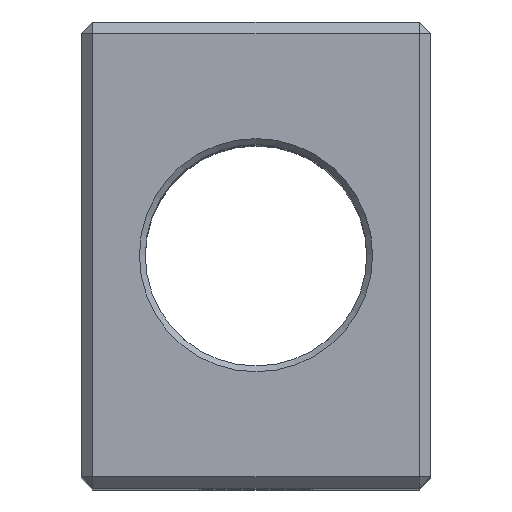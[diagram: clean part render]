
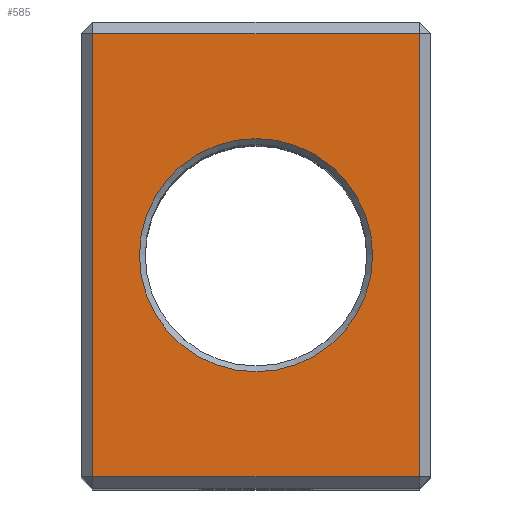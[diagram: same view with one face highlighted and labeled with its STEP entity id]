
A CAD part, top view. The second image highlights one B-rep face of the part: STEP entity #585.
In plain terms, the highlighted planar face has unit normal (0, 0, 1).
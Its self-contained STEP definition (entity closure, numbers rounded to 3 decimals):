
#32=FACE_BOUND('',#117,.T.);
#41=PLANE('',#655);
#73=FACE_OUTER_BOUND('',#116,.T.);
#116=EDGE_LOOP('',(#454,#455,#456,#457));
#117=EDGE_LOOP('',(#458));
#164=LINE('',#1046,#223);
#165=LINE('',#1048,#224);
#166=LINE('',#1050,#225);
#167=LINE('',#1051,#226);
#223=VECTOR('',#740,10.);
#224=VECTOR('',#741,10.);
#225=VECTOR('',#742,10.);
#226=VECTOR('',#743,10.);
#278=CIRCLE('',#650,10.);
#301=VERTEX_POINT('',#962);
#307=VERTEX_POINT('',#1044);
#308=VERTEX_POINT('',#1045);
#309=VERTEX_POINT('',#1047);
#310=VERTEX_POINT('',#1049);
#350=EDGE_CURVE('',#301,#301,#278,.T.);
#358=EDGE_CURVE('',#307,#308,#164,.T.);
#359=EDGE_CURVE('',#309,#307,#165,.T.);
#360=EDGE_CURVE('',#310,#309,#166,.T.);
#361=EDGE_CURVE('',#308,#310,#167,.T.);
#454=ORIENTED_EDGE('',*,*,#358,.F.);
#455=ORIENTED_EDGE('',*,*,#359,.F.);
#456=ORIENTED_EDGE('',*,*,#360,.F.);
#457=ORIENTED_EDGE('',*,*,#361,.F.);
#458=ORIENTED_EDGE('',*,*,#350,.F.);
#585=ADVANCED_FACE('',(#73,#32),#41,.T.);
#650=AXIS2_PLACEMENT_3D('',#963,#726,#727);
#655=AXIS2_PLACEMENT_3D('',#1043,#738,#739);
#726=DIRECTION('center_axis',(0.,0.,1.));
#727=DIRECTION('ref_axis',(-1.,0.,0.));
#738=DIRECTION('center_axis',(0.,0.,1.));
#739=DIRECTION('ref_axis',(1.,0.,0.));
#740=DIRECTION('',(1.,0.,0.));
#741=DIRECTION('',(0.,1.,0.));
#742=DIRECTION('',(-1.,0.,0.));
#743=DIRECTION('',(0.,-1.,0.));
#962=CARTESIAN_POINT('',(10.,0.,40.));
#963=CARTESIAN_POINT('Origin',(0.,0.,40.));
#1043=CARTESIAN_POINT('Origin',(0.,0.,
40.));
#1044=CARTESIAN_POINT('',(-14.,19.,40.));
#1045=CARTESIAN_POINT('',(14.,19.,40.));
#1046=CARTESIAN_POINT('',(7.5,19.,40.));
#1047=CARTESIAN_POINT('',(-14.,-19.,40.));
#1048=CARTESIAN_POINT('',(-14.,10.,40.));
#1049=CARTESIAN_POINT('',(14.,-19.,40.));
#1050=CARTESIAN_POINT('',(-7.5,-19.,40.));
#1051=CARTESIAN_POINT('',(14.,-10.,40.));
